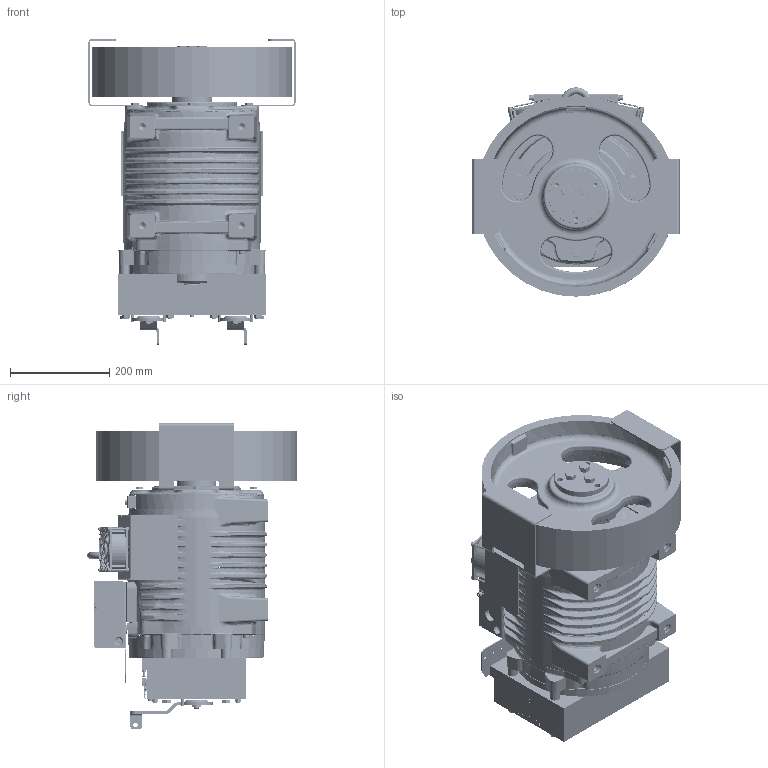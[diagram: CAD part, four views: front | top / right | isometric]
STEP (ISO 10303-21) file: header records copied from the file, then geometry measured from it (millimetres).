
FILE_DESCRIPTION((''),'2;1');
FILE_NAME('00366577_ASM','2023-06-05T12:21:23',('AsgharM'),('Sicor spa'),'CREO PARAMETRIC BY PTC INC, 2022164','CREO PARAMETRIC BY PTC INC, 2022164','');
FILE_SCHEMA(('CONFIG_CONTROL_DESIGN'));
Products named in the file (18): SG30_2023; G__400; _400_100; 00073486; GROWER_M12_GRO0002; TEM12X45_VIT0222; 00246001; M4_FTT_C; 00254619_ASM; 00254091; 00254090; 00254089_ASM; 00257271; 00042420_M4X50; TEM6X12_VIR0184; 00000263; 00257441_ASM; 00366577_ASM
Assembly tree (39 placements, depth 4):
  00366577_ASM
    SG30_2023
    G__400  x2
    _400_100
    00073486
    GROWER_M12_GRO0002  x3
    TEM12X45_VIT0222  x3
    00257441_ASM
      00254619_ASM
        00246001
        M4_FTT_C  x8
      00254089_ASM  x2
        00254091
        00254090
      00257271  x2
      00042420_M4X50  x8
      TEM6X12_VIR0184  x2
      00000263
Bounding box: 417 x 421.99 x 615.52 mm (x, y, z)
Volume: 5712818.7 mm3; surface area: 2169145.8 mm2
Topology: 36 solids, 289 shells, 5113 faces, 17541 edges, 12524 vertices
Faces by surface type: plane 1979, cylinder 1220, bspline 1011, torus 450, cone 419, sphere 34
Entity records: 245573 total; most frequent: CARTESIAN_POINT 116726, ORIENTED_EDGE 25094, DIRECTION 24567, EDGE_CURVE 16065, VERTEX_POINT 11651, VECTOR 9149, LINE 9149, AXIS2_PLACEMENT_3D 7709
